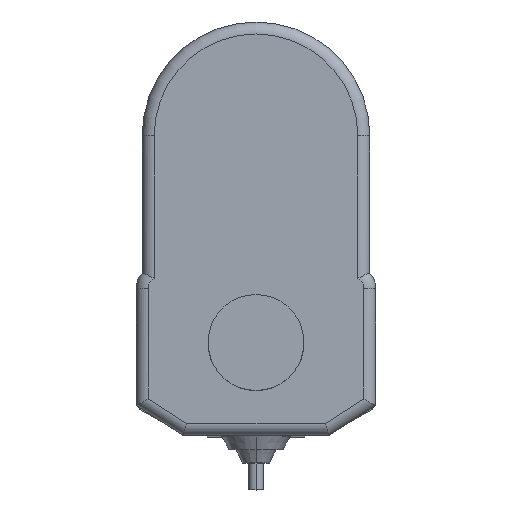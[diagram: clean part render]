
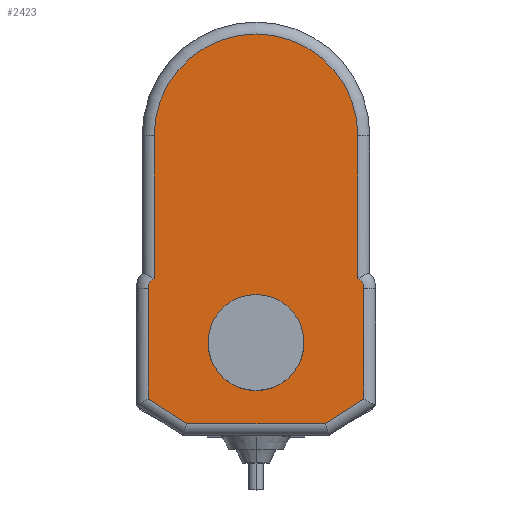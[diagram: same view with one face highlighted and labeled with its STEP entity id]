
A CAD part, top view. The second image highlights one B-rep face of the part: STEP entity #2423.
In plain terms, the highlighted planar face has unit normal (0, 0, 1).
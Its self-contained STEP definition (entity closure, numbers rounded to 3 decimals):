
#17 = VERTEX_POINT ( 'NONE', #803 ) ;
#31 = ORIENTED_EDGE ( 'NONE', *, *, #4813, .T. ) ;
#80 = ORIENTED_EDGE ( 'NONE', *, *, #5016, .T. ) ;
#89 = EDGE_CURVE ( 'NONE', #613, #4724, #1187, .T. ) ;
#134 = VERTEX_POINT ( 'NONE', #1748 ) ;
#138 = EDGE_LOOP ( 'NONE', ( #5244, #5008 ) ) ;
#316 = VERTEX_POINT ( 'NONE', #3465 ) ;
#360 = VERTEX_POINT ( 'NONE', #3662 ) ;
#468 = VERTEX_POINT ( 'NONE', #1659 ) ;
#518 = EDGE_LOOP ( 'NONE', ( #4943, #5129, #4891, #5094, #5022, #4887, #80, #5151, #31, #4987 ) ) ;
#613 = VERTEX_POINT ( 'NONE', #2739 ) ;
#626 = VERTEX_POINT ( 'NONE', #2903 ) ;
#803 = CARTESIAN_POINT ( 'NONE',  ( -18., 9., 114.9 ) ) ;
#913 = CIRCLE ( 'NONE', #914, 8. ) ;
#914 = AXIS2_PLACEMENT_3D ( 'NONE', #915, #916, #917 ) ;
#915 = CARTESIAN_POINT ( 'NONE',  ( 0., 0., 114.9 ) ) ;
#916 = DIRECTION ( 'NONE',  ( 0., 0., 1. ) ) ;
#917 = DIRECTION ( 'NONE',  ( 1., 0., 0. ) ) ;
#1001 = CARTESIAN_POINT ( 'NONE',  ( 0., 8., 114.9 ) ) ;
#1011 = CARTESIAN_POINT ( 'NONE',  ( 0., -8., 114.9 ) ) ;
#1187 = LINE ( 'NONE', #1191, #1192 ) ;
#1191 = CARTESIAN_POINT ( 'NONE',  ( -17., 11.646, 114.9 ) ) ;
#1192 = VECTOR ( 'NONE', #1193, 1000. ) ;
#1193 = DIRECTION ( 'NONE',  ( 0., -1., 0. ) ) ;
#1387 = EDGE_CURVE ( 'NONE', #4949, #4946, #913, .T. ) ;
#1523 = CIRCLE ( 'NONE', #1524, 17. ) ;
#1524 = AXIS2_PLACEMENT_3D ( 'NONE', #1525, #1529, #1530 ) ;
#1525 = CARTESIAN_POINT ( 'NONE',  ( 0., 34.5, 114.9 ) ) ;
#1529 = DIRECTION ( 'NONE',  ( 0., 0., 1. ) ) ;
#1530 = DIRECTION ( 'NONE',  ( 1., 0., 0. ) ) ;
#1614 = FACE_OUTER_BOUND ( 'NONE', #518, .T. ) ;
#1615 = FACE_BOUND ( 'NONE', #138, .T. ) ;
#1616 = PLANE ( 'NONE',  #1617 ) ;
#1617 = AXIS2_PLACEMENT_3D ( 'NONE', #1618, #1619, #1620 ) ;
#1618 = CARTESIAN_POINT ( 'NONE',  ( 0., 34.5, 114.9 ) ) ;
#1619 = DIRECTION ( 'NONE',  ( 0., 0., 1. ) ) ;
#1620 = DIRECTION ( 'NONE',  ( 1., 0., 0. ) ) ;
#1650 = CIRCLE ( 'NONE', #1651, 8. ) ;
#1651 = AXIS2_PLACEMENT_3D ( 'NONE', #1652, #1653, #1654 ) ;
#1652 = CARTESIAN_POINT ( 'NONE',  ( 0., 0., 114.9 ) ) ;
#1653 = DIRECTION ( 'NONE',  ( 0., 0., 1. ) ) ;
#1654 = DIRECTION ( 'NONE',  ( 1., 0., 0. ) ) ;
#1659 = CARTESIAN_POINT ( 'NONE',  ( 17., 10.732, 114.9 ) ) ;
#1748 = CARTESIAN_POINT ( 'NONE',  ( 11.569, -13.5, 114.9 ) ) ;
#2182 = LINE ( 'NONE', #2183, #2184 ) ;
#2183 = CARTESIAN_POINT ( 'NONE',  ( 18.925, -8.813, 114.9 ) ) ;
#2184 = VECTOR ( 'NONE', #2185, 1000. ) ;
#2185 = DIRECTION ( 'NONE',  ( 0.843, 0.537, 0. ) ) ;
#2274 = LINE ( 'NONE', #2275, #2276 ) ;
#2275 = CARTESIAN_POINT ( 'NONE',  ( 12.152, -13.5, 114.9 ) ) ;
#2276 = VECTOR ( 'NONE', #2277, 1000. ) ;
#2277 = DIRECTION ( 'NONE',  ( 1., 0., 0. ) ) ;
#2423 = ADVANCED_FACE ( 'NONE', ( #1614, #1615 ), #1616, .T. ) ;
#2629 = CARTESIAN_POINT ( 'NONE',  ( 18., 9., 114.9 ) ) ;
#2739 = CARTESIAN_POINT ( 'NONE',  ( -17., 34.5, 114.9 ) ) ;
#2903 = CARTESIAN_POINT ( 'NONE',  ( 17., 34.5, 114.9 ) ) ;
#3149 = CIRCLE ( 'NONE', #3150, 2. ) ;
#3150 = AXIS2_PLACEMENT_3D ( 'NONE', #3151, #3152, #3153 ) ;
#3151 = CARTESIAN_POINT ( 'NONE',  ( 16., 9., 114.9 ) ) ;
#3152 = DIRECTION ( 'NONE',  ( 0., 0., 1. ) ) ;
#3153 = DIRECTION ( 'NONE',  ( 1., 0., 0. ) ) ;
#3239 = CARTESIAN_POINT ( 'NONE',  ( -17., 10.732, 114.9 ) ) ;
#3369 = CIRCLE ( 'NONE', #3370, 2. ) ;
#3370 = AXIS2_PLACEMENT_3D ( 'NONE', #3371, #3372, #3373 ) ;
#3371 = CARTESIAN_POINT ( 'NONE',  ( -16., 9., 114.9 ) ) ;
#3372 = DIRECTION ( 'NONE',  ( 0., 0., 1. ) ) ;
#3373 = DIRECTION ( 'NONE',  ( 1., 0., 0. ) ) ;
#3465 = CARTESIAN_POINT ( 'NONE',  ( -18., -9.403, 114.9 ) ) ;
#3496 = LINE ( 'NONE', #3497, #3498 ) ;
#3497 = CARTESIAN_POINT ( 'NONE',  ( 18., 9., 114.9 ) ) ;
#3498 = VECTOR ( 'NONE', #3499, 1000. ) ;
#3499 = DIRECTION ( 'NONE',  ( 0., 1., 0. ) ) ;
#3630 = LINE ( 'NONE', #3631, #3632 ) ;
#3631 = CARTESIAN_POINT ( 'NONE',  ( -11.077, -13.813, 114.9 ) ) ;
#3632 = VECTOR ( 'NONE', #3633, 1000. ) ;
#3633 = DIRECTION ( 'NONE',  ( 0.843, -0.537, 0. ) ) ;
#3662 = CARTESIAN_POINT ( 'NONE',  ( 18., -9.403, 114.9 ) ) ;
#3764 = LINE ( 'NONE', #3765, #3768 ) ;
#3765 = CARTESIAN_POINT ( 'NONE',  ( 17., 34.5, 114.9 ) ) ;
#3768 = VECTOR ( 'NONE', #3769, 1000. ) ;
#3769 = DIRECTION ( 'NONE',  ( 0., 1., 0. ) ) ;
#3789 = CARTESIAN_POINT ( 'NONE',  ( -11.569, -13.5, 114.9 ) ) ;
#3812 = LINE ( 'NONE', #3813, #3814 ) ;
#3813 = CARTESIAN_POINT ( 'NONE',  ( -18., -10.5, 114.9 ) ) ;
#3814 = VECTOR ( 'NONE', #3815, 1000. ) ;
#3815 = DIRECTION ( 'NONE',  ( 0., -1., 0. ) ) ;
#4581 = EDGE_CURVE ( 'NONE', #5160, #468, #3149, .T. ) ;
#4724 = VERTEX_POINT ( 'NONE', #3239 ) ;
#4813 = EDGE_CURVE ( 'NONE', #4724, #17, #3369, .T. ) ;
#4879 = EDGE_CURVE ( 'NONE', #316, #4927, #3630, .T. ) ;
#4887 = ORIENTED_EDGE ( 'NONE', *, *, #4921, .T. ) ;
#4891 = ORIENTED_EDGE ( 'NONE', *, *, #5099, .T. ) ;
#4921 = EDGE_CURVE ( 'NONE', #468, #626, #3764, .T. ) ;
#4927 = VERTEX_POINT ( 'NONE', #3789 ) ;
#4938 = EDGE_CURVE ( 'NONE', #17, #316, #3812, .T. ) ;
#4943 = ORIENTED_EDGE ( 'NONE', *, *, #4879, .T. ) ;
#4946 = VERTEX_POINT ( 'NONE', #1001 ) ;
#4949 = VERTEX_POINT ( 'NONE', #1011 ) ;
#4987 = ORIENTED_EDGE ( 'NONE', *, *, #4938, .T. ) ;
#5008 = ORIENTED_EDGE ( 'NONE', *, *, #1387, .F. ) ;
#5016 = EDGE_CURVE ( 'NONE', #626, #613, #1523, .T. ) ;
#5022 = ORIENTED_EDGE ( 'NONE', *, *, #4581, .T. ) ;
#5032 = EDGE_CURVE ( 'NONE', #4946, #4949, #1650, .T. ) ;
#5094 = ORIENTED_EDGE ( 'NONE', *, *, #5271, .T. ) ;
#5099 = EDGE_CURVE ( 'NONE', #134, #360, #2182, .T. ) ;
#5118 = EDGE_CURVE ( 'NONE', #4927, #134, #2274, .T. ) ;
#5129 = ORIENTED_EDGE ( 'NONE', *, *, #5118, .T. ) ;
#5151 = ORIENTED_EDGE ( 'NONE', *, *, #89, .T. ) ;
#5160 = VERTEX_POINT ( 'NONE', #2629 ) ;
#5244 = ORIENTED_EDGE ( 'NONE', *, *, #5032, .F. ) ;
#5271 = EDGE_CURVE ( 'NONE', #360, #5160, #3496, .T. ) ;
